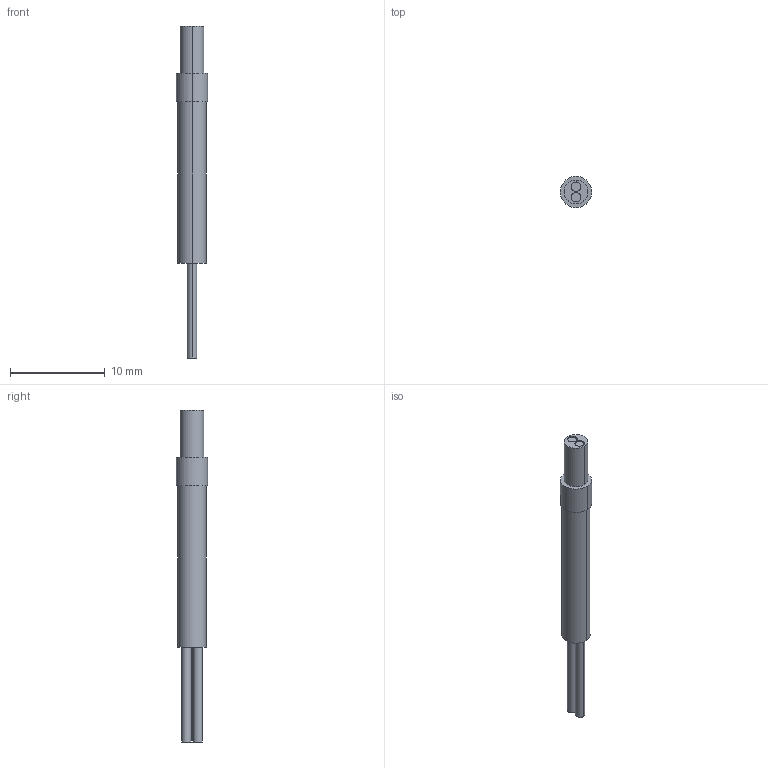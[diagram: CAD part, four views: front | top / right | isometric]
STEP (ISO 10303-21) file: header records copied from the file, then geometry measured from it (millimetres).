
FILE_DESCRIPTION (( 'STEP AP203' ), '1' );
FILE_NAME ('FD-SNFM2.STEP', '2005-09-04T10:19:58', ( '川島良英' ), ( ' ' ), 'SwSTEP 2.0', 'SolidWorks 2004251', '' );
FILE_SCHEMA (( 'CONFIG_CONTROL_DESIGN' ));
Length unit declared in the file: millimetre
Products named in the file (1): FD-SNFM2
Bounding box: 3.3 x 3.3 x 35 mm (x, y, z)
Volume: 185.9 mm3; surface area: 311.2 mm2
Topology: 1 solids, 1 shells, 22 faces, 42 edges, 28 vertices
Faces by surface type: cylinder 14, plane 8
Entity records: 651 total; most frequent: DIRECTION 116, CARTESIAN_POINT 93, ORIENTED_EDGE 84, AXIS2_PLACEMENT_3D 51, EDGE_CURVE 42, CIRCLE 28, EDGE_LOOP 28, VERTEX_POINT 28
